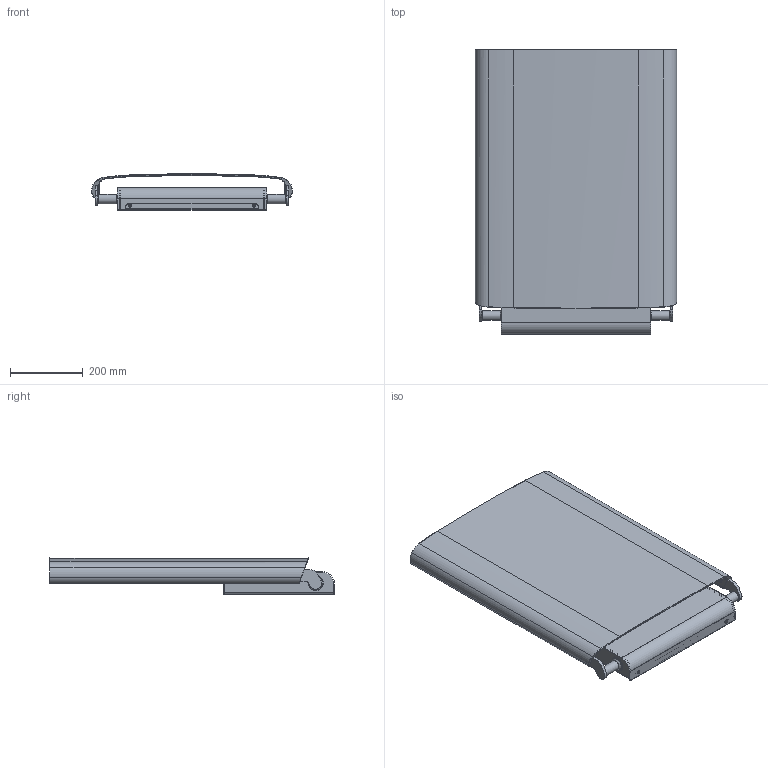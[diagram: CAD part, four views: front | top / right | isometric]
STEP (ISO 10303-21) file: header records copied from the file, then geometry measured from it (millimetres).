
FILE_DESCRIPTION(/* description */ (''),/* implementation_level */ '2;1');
FILE_NAME(/* name */ 'X:\Standardvarer\3200 - 3220 Björk puslebord\Tegninger\Public\3200 - simplified - up.stp',/* time_stamp */ '2017-12-19T11:20:25+01:00',/* author */ ('Dan Dryer'),/* organization */ (''),/* preprocessor_version */ 'ST-DEVELOPER v15.6',/* originating_system */ 'Autodesk Inventor 2015',/* authorisation */ '');
FILE_SCHEMA (('AUTOMOTIVE_DESIGN { 1 0 10303 214 3 1 1 }'));
Length unit declared in the file: centimetre
Products named in the file (1): 3200 - simplified - up
Bounding box: 551.44 x 781.27 x 99.86 mm (x, y, z)
Volume: 4033631.7 mm3; surface area: 1657397.2 mm2
Topology: 3 solids, 23 shells, 786 faces, 1862 edges, 1164 vertices
Faces by surface type: cylinder 324, plane 308, cone 92, torus 38, bspline 24
Full cylindrical faces by diameter (mm): 3.242 x4, 4 x14, 4.6 x14, 5 x8, 5.5 x8, 7 x8, 7.5 x8, 7.8 x8, 8.7 x2, 9.43 x8, 10 x2, 15 x2, 26 x2, 33 x4, 35 x8, 39 x1, 41 x2, 45 x1
Entity records: 22644 total; most frequent: CARTESIAN_POINT 4734, DIRECTION 3794, ORIENTED_EDGE 3232, EDGE_CURVE 1616, AXIS2_PLACEMENT_3D 1527, VERTEX_POINT 1098, EDGE_LOOP 1070, FACE_OUTER_BOUND 786
